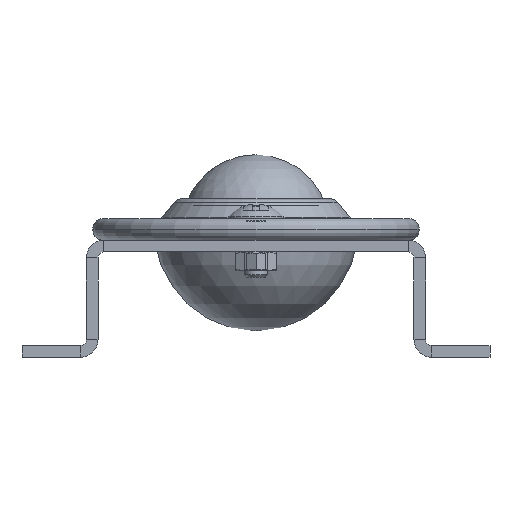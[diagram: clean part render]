
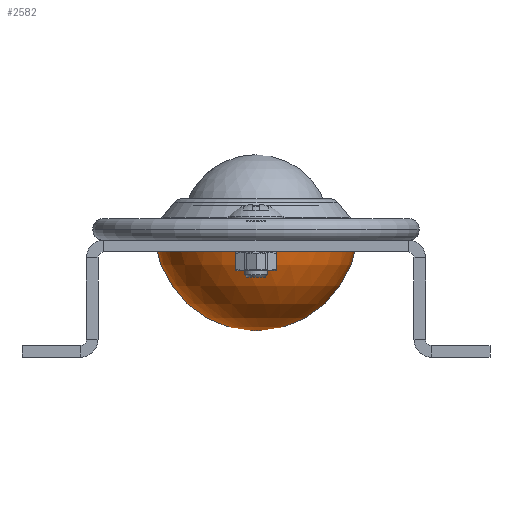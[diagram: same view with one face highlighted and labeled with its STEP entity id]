
A CAD part, front view. The second image highlights one B-rep face of the part: STEP entity #2582.
In plain terms, the highlighted spherical face has radius 17.4 mm.
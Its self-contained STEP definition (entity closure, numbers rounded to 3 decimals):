
#301=SPHERICAL_SURFACE('',#2850,17.4);
#722=FACE_BOUND('',#1130,.T.);
#840=FACE_OUTER_BOUND('',#1129,.T.);
#1129=EDGE_LOOP('',(#2217));
#1130=EDGE_LOOP('',(#2218));
#1333=CIRCLE('',#2848,0.75);
#1335=CIRCLE('',#2851,17.266);
#1521=VERTEX_POINT('',#4268);
#1523=VERTEX_POINT('',#4273);
#1769=EDGE_CURVE('',#1521,#1521,#1333,.T.);
#1771=EDGE_CURVE('',#1523,#1523,#1335,.T.);
#2217=ORIENTED_EDGE('',*,*,#1771,.F.);
#2218=ORIENTED_EDGE('',*,*,#1769,.T.);
#2582=ADVANCED_FACE('',(#840,#722),#301,.T.);
#2848=AXIS2_PLACEMENT_3D('',#4269,#3487,#3488);
#2850=AXIS2_PLACEMENT_3D('',#4272,#3491,#3492);
#2851=AXIS2_PLACEMENT_3D('',#4274,#3493,#3494);
#3487=DIRECTION('center_axis',(0.,0.,1.));
#3488=DIRECTION('ref_axis',(0.,-1.,0.));
#3491=DIRECTION('center_axis',(0.,0.,1.));
#3492=DIRECTION('ref_axis',(1.,0.,0.));
#3493=DIRECTION('center_axis',(0.,0.,1.));
#3494=DIRECTION('ref_axis',(0.,-1.,0.));
#4268=CARTESIAN_POINT('',(0.,-0.75,-15.484));
#4269=CARTESIAN_POINT('Origin',(0.,0.,-15.484));
#4272=CARTESIAN_POINT('Origin',(0.,0.,1.9));
#4273=CARTESIAN_POINT('',(0.,-17.266,-0.252));
#4274=CARTESIAN_POINT('Origin',(0.,0.,-0.252));
